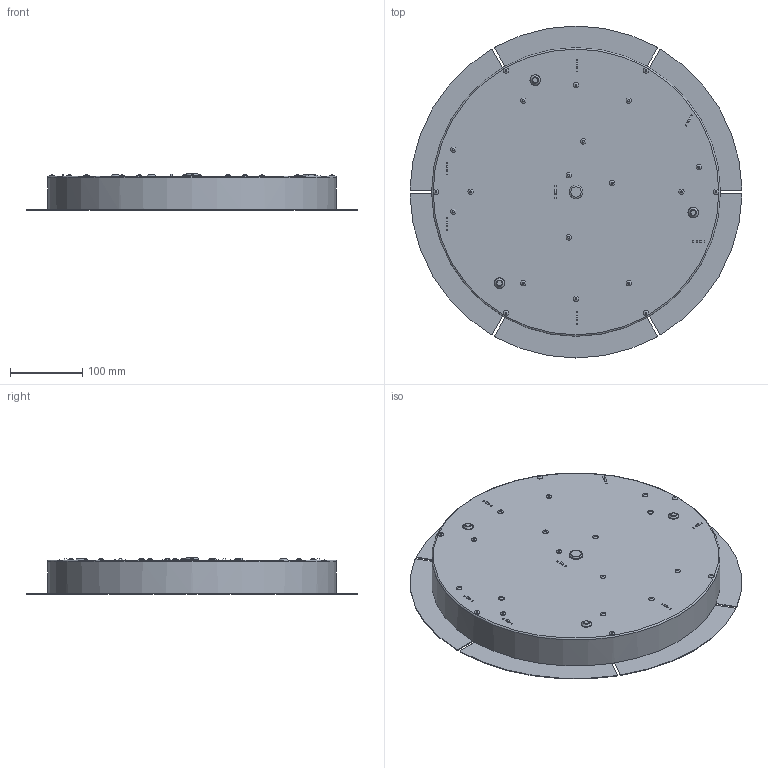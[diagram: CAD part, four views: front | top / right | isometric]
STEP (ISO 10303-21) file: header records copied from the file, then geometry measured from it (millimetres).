
FILE_DESCRIPTION(/* description */ ('Unknown'),/* implementation_level */ '2;1');
FILE_NAME(/* name */ '65412',/* time_stamp */ '2023-02-08T02:20:34-05:00',/* author */ ('Unknown'),/* organization */ ('Unknown'),/* preprocessor_version */ 'ST-DEVELOPER v18.1',/* originating_system */ 'Solid Edge',/* authorisation */ 'Unknown');
FILE_SCHEMA (('AUTOMOTIVE_DESIGN {1 0 10303 214 3 1 1}'));
Length unit declared in the file: millimetre
Products named in the file (1): 65412
Bounding box: 459.93 x 460 x 50.5 mm (x, y, z)
Volume: 5947052.1 mm3; surface area: 391070.6 mm2
Topology: 1 solids, 1 shells, 284 faces, 650 edges, 421 vertices
Faces by surface type: plane 191, cylinder 61, torus 29, cone 3
Full cylindrical faces by diameter (mm): 7.3 x21, 18.5 x1, 400 x1
Entity records: 7656 total; most frequent: DIRECTION 1328, CARTESIAN_POINT 1291, ORIENTED_EDGE 1180, EDGE_CURVE 590, AXIS2_PLACEMENT_3D 453, LINE 422, VECTOR 422, VERTEX_POINT 416
